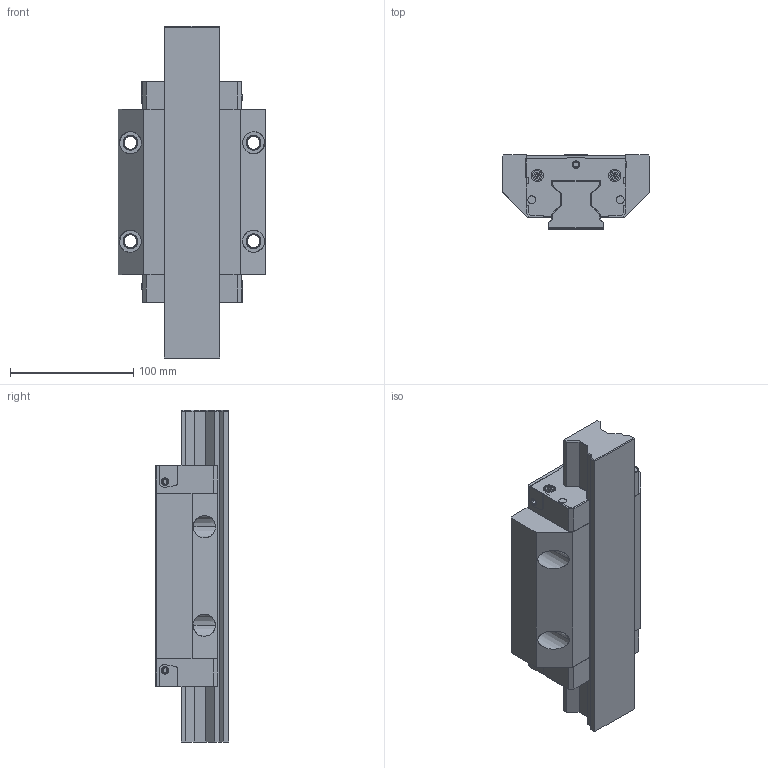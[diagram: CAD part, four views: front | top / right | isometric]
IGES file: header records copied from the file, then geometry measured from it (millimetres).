
Start section: 3D InterOp IGES (v. 2019 1.0.2), Spatial Corp. Copyright (c) 1999-2017.
Global section: file name: R1853_size45.igs; native system: Spatial Corp.; preprocessor: 3D InterOp GENERIC/IGES 3.0; author: Noname; organization: Noname; date: 20220630.112922; units: millimetre
Bounding box: 120 x 60 x 269.5 mm (x, y, z)
Surface area: 172232.2 mm2 (no closed solid volume)
Topology: 0 solids, 0 shells, 536 faces, 2828 edges, 2808 vertices
Faces by surface type: extrusion 336, revolution 200
